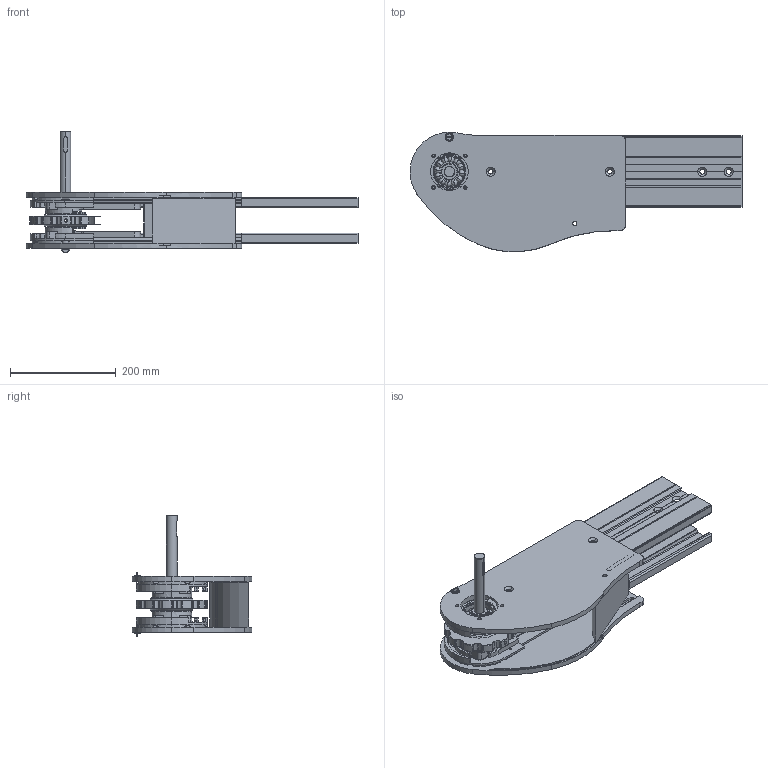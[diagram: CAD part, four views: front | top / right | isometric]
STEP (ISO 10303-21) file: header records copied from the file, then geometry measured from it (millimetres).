
FILE_DESCRIPTION (( 'STEP AP203' ), '1' );
FILE_NAME ('R2M-G20.STEP', '2008-12-02T09:31:30', ( 'faber' ), ( '' ), 'SwSTEP 2.0', 'SolidWorks 2008', '' );
FILE_SCHEMA (( 'CONFIG_CONTROL_DESIGN' ));
Length unit declared in the file: millimetre
Products named in the file (1): R2M-G20
Bounding box: 627.5 x 225.64 x 228.47 mm (x, y, z)
Surface area: 894264.8 mm2 (no closed solid volume)
Topology: 0 solids, 30 shells, 621 faces, 2392 edges, 1710 vertices
Faces by surface type: cylinder 272, plane 244, cone 65, sphere 24, torus 13, bspline 3
Entity records: 26933 total; most frequent: CARTESIAN_POINT 7005, DIRECTION 4268, ORIENTED_EDGE 3842, EDGE_CURVE 2344, VERTEX_POINT 1686, AXIS2_PLACEMENT_3D 1589, VECTOR 1090, LINE 1090
